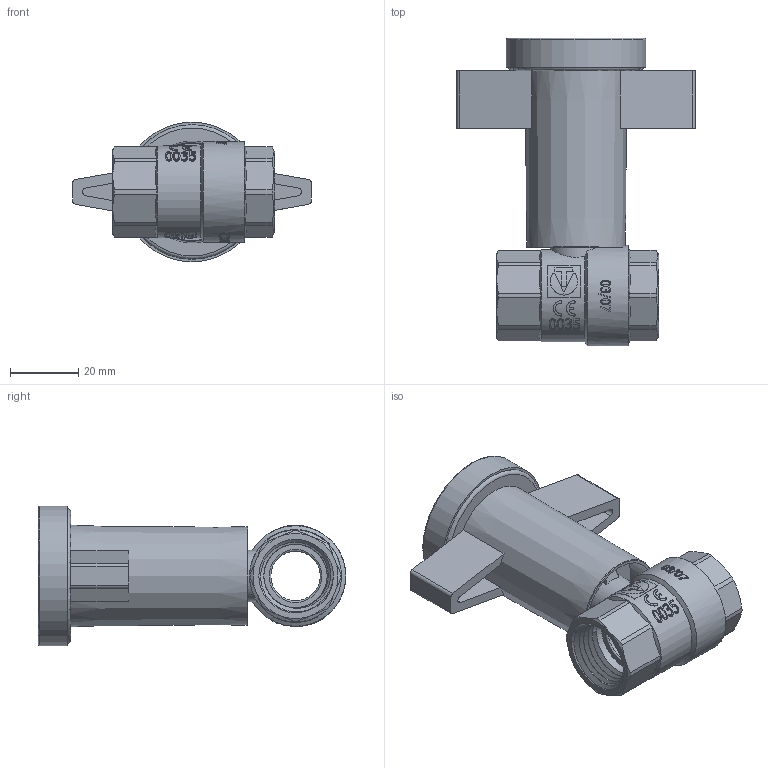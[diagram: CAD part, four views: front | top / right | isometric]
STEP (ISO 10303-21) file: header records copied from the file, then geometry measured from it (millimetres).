
FILE_DESCRIPTION(/* description */ (''),/* implementation_level */ '2;1');
FILE_NAME(/* name */ 'E:\Артём\00000\Работа удаленка\CD\VT.808.N.04_1.stp',/* time_stamp */ '2020-05-12T17:55:13+03:00',/* author */ ('BeN_GaN'),/* organization */ (''),/* preprocessor_version */ 'ST-DEVELOPER v18',/* originating_system */ 'Autodesk Inventor 2020',/* authorisation */ '');
FILE_SCHEMA (('AUTOMOTIVE_DESIGN { 1 0 10303 214 3 1 1 }'));
Length unit declared in the file: millimetre
Products named in the file (1): VT.808.N.04_1
Bounding box: 69.99 x 90.27 x 41 mm (x, y, z)
Volume: 43444 mm3; surface area: 32141.2 mm2
Topology: 3 solids, 5 shells, 1132 faces, 2950 edges, 1969 vertices
Faces by surface type: plane 659, bspline 303, cylinder 134, cone 26, torus 10
Full cylindrical faces by diameter (mm): 1.006 x1, 1.5 x1, 3.5 x1, 4.5 x1, 5 x1, 5.4 x1, 7.967 x1, 8.3 x1, 9 x1, 10.75 x1, 14.5 x2, 15 x1, 15.5 x1, 18.6 x9, 20.966 x1, 22.2 x10, 22.979 x2, 24.153 x1, 27 x1, 27.005 x1, 28.43 x1, 29.5 x1, 37.48 x1, 37.5 x1, 39.5 x1, 39.52 x1, 41 x1
Entity records: 45534 total; most frequent: CARTESIAN_POINT 18382, ORIENTED_EDGE 5902, DIRECTION 4329, EDGE_CURVE 2951, VERTEX_POINT 1969, LINE 1743, VECTOR 1743, AXIS2_PLACEMENT_3D 1293
